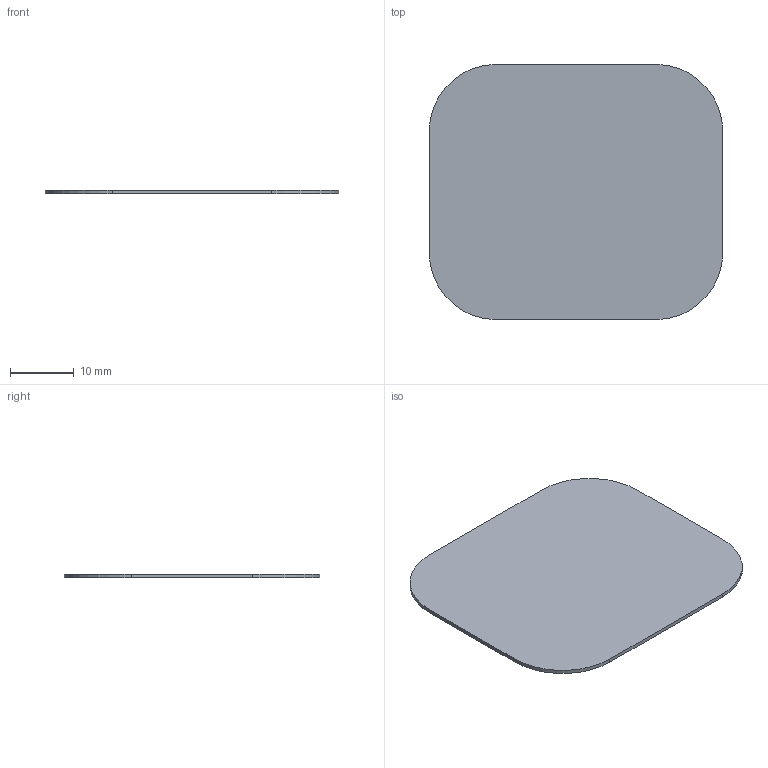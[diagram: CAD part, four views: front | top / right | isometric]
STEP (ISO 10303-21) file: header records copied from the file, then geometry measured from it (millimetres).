
FILE_DESCRIPTION(('FreeCAD Model'),'2;1');
FILE_NAME('Open CASCADE Shape Model','2026-09-22T00:47:39',('FreeCAD'),( 'FreeCAD'),'Open CASCADE STEP processor 7.8','FreeCAD','Unknown');
FILE_SCHEMA(('AUTOMOTIVE_DESIGN { 1 0 10303 214 1 1 1 1 }'));
Length unit declared in the file: millimetre
Products named in the file (1): Open CASCADE STEP translator 7.8 5
Bounding box: 46 x 40 x 0.6 mm (x, y, z)
Volume: 1047.2 mm3; surface area: 3583.1 mm2
Topology: 1 solids, 1 shells, 10 faces, 24 edges, 16 vertices
Faces by surface type: plane 6, cylinder 4
Entity records: 306 total; most frequent: DIRECTION 54, CARTESIAN_POINT 51, ORIENTED_EDGE 48, EDGE_CURVE 24, AXIS2_PLACEMENT_3D 19, VERTEX_POINT 16, LINE 16, VECTOR 16
